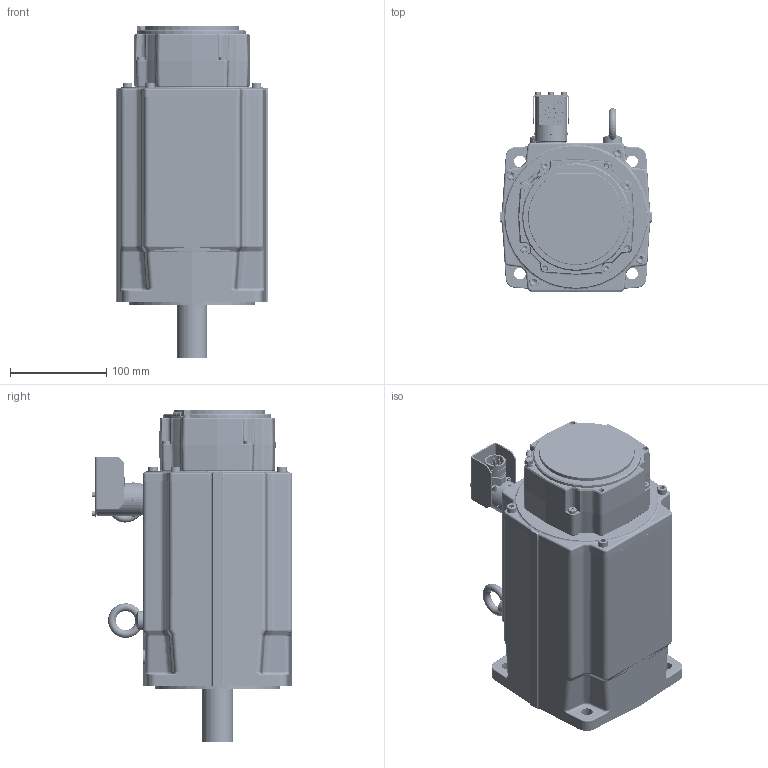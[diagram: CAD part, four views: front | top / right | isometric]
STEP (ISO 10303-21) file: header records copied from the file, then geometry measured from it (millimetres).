
FILE_DESCRIPTION((''),'2;1');
FILE_NAME('EY840EYR7010_ASM','2017-09-29T',('pf73167'),(''),'PRO/ENGINEER BY PARAMETRIC TECHNOLOGY CORPORATION, 2009400','PRO/ENGINEER BY PARAMETRIC TECHNOLOGY CORPORATION, 2009400','');
FILE_SCHEMA(('CONFIG_CONTROL_DESIGN'));
Length unit declared in the file: millimetre
Products named in the file (46): 344441P0017; 5116P1319; 1150P0512; 301026P0003; 344463P0002; 344232P0003; 344212P0003; 344232P0003_ASM; 220087P0301; 344461R0002_ASM; 5116P1327; 1711P0002; 1640P0001; 5340P0036; 344440P0002; 344231P0003; BOB_344465R4000; 344465R4000_ASM; 344466R4000_ASM; SURMOULAGE_344467R4001; 344467R4001_ASM; 5320P0029; 1150P0610; 5340P0071; 344191P0022; 1143P0515; 1190P0001; 6942P0012; 345359P0002; 5340P0124; 5340P0125; 1150P0204; 345359P0001; 1170P0042; 220132P1010_0001; 220132P1010_0002; 220132P0111; 220132P0120; 220132P1010_ASM; 345359P0003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
Assembly tree (93 placements, depth 5):
  EY840EYR7010_ASM
    344441P0017
    5116P1319
    1150P0512  x3
    301026P0003
    344461R0002_ASM
      344463P0002
      344232P0003_ASM
        344232P0003
        344212P0003  x2
      220087P0301  x20
    5116P1327
    1711P0002
    1640P0001  x3
    5340P0036
    344467R4001_ASM
      344440P0002
      344466R4000_ASM
        344465R4000_ASM
          344231P0003
          BOB_344465R4000
      SURMOULAGE_344467R4001
    5320P0029
    1150P0610  x4
    5340P0071
    344191P0022
    1143P0515  x4
    1190P0001  x2
    6942P0012
    345359R1010_800_ASM
      345359P0002
      5340P0124
      5340P0125
      1150P0204  x8
      345359P0001
      1170P0042  x4
      220132P1010_ASM
        220132P1010_0001
        220132P1010_0002
        220132P0111  x4
        220132P0120  x3
      345359P0003
      1150P0305  x3
    1642P0105
    6620P0014
    1145P0508
Bounding box: 157 x 207.7 x 345 mm (x, y, z)
Volume: 4106444.9 mm3; surface area: 1189784.6 mm2
Topology: 92 solids, 121 shells, 5395 faces, 12909 edges, 7863 vertices
Faces by surface type: cylinder 1936, plane 1662, bspline 651, cone 611, torus 473, sphere 52, extrusion 10
Entity records: 145250 total; most frequent: CARTESIAN_POINT 50431, ORIENTED_EDGE 19792, DIRECTION 19504, EDGE_CURVE 9896, AXIS2_PLACEMENT_3D 7518, VERTEX_POINT 6175, EDGE_LOOP 4493, VECTOR 4468
